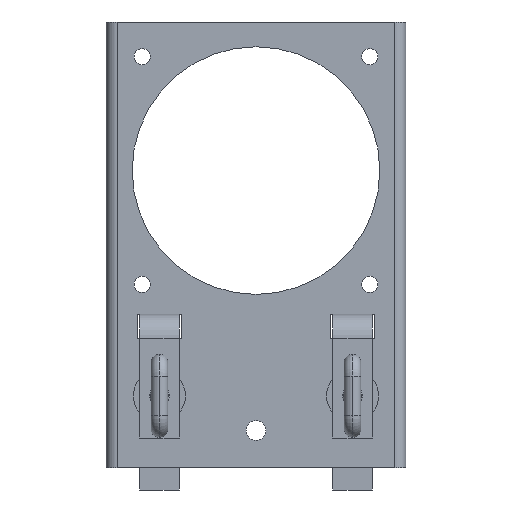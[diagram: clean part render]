
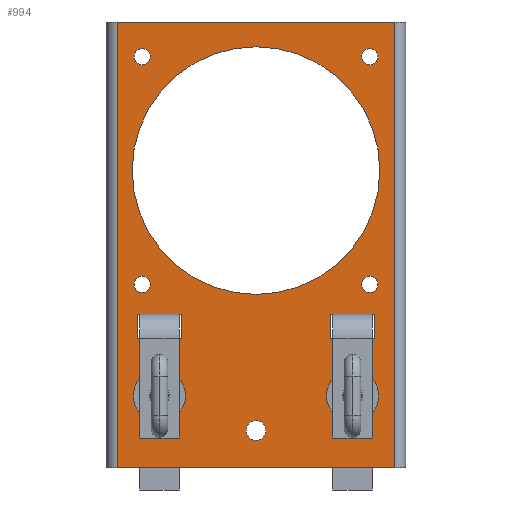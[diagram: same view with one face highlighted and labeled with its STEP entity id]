
A CAD part, front view. The second image highlights one B-rep face of the part: STEP entity #994.
In plain terms, the highlighted planar face has unit normal (0, -1, 0) as drawn and (0, 0, -1) by its records, which use the part's own axes.
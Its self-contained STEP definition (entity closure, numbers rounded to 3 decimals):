
#56=DIRECTION('',(0.,1.,0.));
#57=VECTOR('',#56,180.);
#58=CARTESIAN_POINT('',(-56.,0.,0.));
#59=LINE('',#58,#57);
#209=DIRECTION('',(-1.,0.,0.));
#210=VECTOR('',#209,112.);
#211=CARTESIAN_POINT('',(56.,0.,0.));
#212=LINE('',#211,#210);
#217=DIRECTION('',(0.,1.,0.));
#218=VECTOR('',#217,180.);
#219=CARTESIAN_POINT('',(56.,0.,0.));
#220=LINE('',#219,#218);
#235=CARTESIAN_POINT('',(0.,60.,0.));
#236=DIRECTION('',(0.,0.,1.));
#237=DIRECTION('',(1.,0.,0.));
#238=AXIS2_PLACEMENT_3D('',#235,#236,#237);
#240=CARTESIAN_POINT('',(0.,60.,0.));
#241=DIRECTION('',(0.,0.,1.));
#242=DIRECTION('',(-1.,0.,0.));
#243=AXIS2_PLACEMENT_3D('',#240,#241,#242);
#245=CARTESIAN_POINT('',(46.,106.,0.));
#246=DIRECTION('',(0.,0.,1.));
#247=DIRECTION('',(1.,0.,0.));
#248=AXIS2_PLACEMENT_3D('',#245,#246,#247);
#250=CARTESIAN_POINT('',(46.,106.,0.));
#251=DIRECTION('',(0.,0.,1.));
#252=DIRECTION('',(-1.,0.,0.));
#253=AXIS2_PLACEMENT_3D('',#250,#251,#252);
#255=CARTESIAN_POINT('',(46.,14.,0.));
#256=DIRECTION('',(0.,0.,1.));
#257=DIRECTION('',(1.,0.,0.));
#258=AXIS2_PLACEMENT_3D('',#255,#256,#257);
#260=CARTESIAN_POINT('',(46.,14.,0.));
#261=DIRECTION('',(0.,0.,1.));
#262=DIRECTION('',(-1.,0.,0.));
#263=AXIS2_PLACEMENT_3D('',#260,#261,#262);
#265=CARTESIAN_POINT('',(-46.,106.,0.));
#266=DIRECTION('',(0.,0.,1.));
#267=DIRECTION('',(1.,0.,0.));
#268=AXIS2_PLACEMENT_3D('',#265,#266,#267);
#270=CARTESIAN_POINT('',(-46.,106.,0.));
#271=DIRECTION('',(0.,0.,1.));
#272=DIRECTION('',(-1.,0.,0.));
#273=AXIS2_PLACEMENT_3D('',#270,#271,#272);
#275=CARTESIAN_POINT('',(-46.,14.,0.));
#276=DIRECTION('',(0.,0.,1.));
#277=DIRECTION('',(1.,0.,0.));
#278=AXIS2_PLACEMENT_3D('',#275,#276,#277);
#280=CARTESIAN_POINT('',(-46.,14.,0.));
#281=DIRECTION('',(0.,0.,1.));
#282=DIRECTION('',(-1.,0.,0.));
#283=AXIS2_PLACEMENT_3D('',#280,#281,#282);
#285=DIRECTION('',(-1.,0.,0.));
#286=VECTOR('',#285,18.);
#287=CARTESIAN_POINT('',(-30.,128.,0.));
#288=LINE('',#287,#286);
#289=DIRECTION('',(0.,1.,0.));
#290=VECTOR('',#289,10.);
#291=CARTESIAN_POINT('',(-30.,118.,0.));
#292=LINE('',#291,#290);
#293=DIRECTION('',(1.,0.,0.));
#294=VECTOR('',#293,18.);
#295=CARTESIAN_POINT('',(-48.,118.,0.));
#296=LINE('',#295,#294);
#297=DIRECTION('',(0.,-1.,0.));
#298=VECTOR('',#297,10.);
#299=CARTESIAN_POINT('',(-48.,128.,0.));
#300=LINE('',#299,#298);
#301=DIRECTION('',(-1.,0.,0.));
#302=VECTOR('',#301,18.);
#303=CARTESIAN_POINT('',(48.,128.,0.));
#304=LINE('',#303,#302);
#305=DIRECTION('',(0.,1.,0.));
#306=VECTOR('',#305,10.);
#307=CARTESIAN_POINT('',(48.,118.,0.));
#308=LINE('',#307,#306);
#309=DIRECTION('',(1.,0.,0.));
#310=VECTOR('',#309,18.);
#311=CARTESIAN_POINT('',(30.,118.,0.));
#312=LINE('',#311,#310);
#313=DIRECTION('',(0.,-1.,0.));
#314=VECTOR('',#313,10.);
#315=CARTESIAN_POINT('',(30.,128.,0.));
#316=LINE('',#315,#314);
#317=CARTESIAN_POINT('',(0.,165.,0.));
#318=DIRECTION('',(0.,0.,1.));
#319=DIRECTION('',(1.,0.,0.));
#320=AXIS2_PLACEMENT_3D('',#317,#318,#319);
#322=CARTESIAN_POINT('',(0.,165.,0.));
#323=DIRECTION('',(0.,0.,1.));
#324=DIRECTION('',(-1.,0.,0.));
#325=AXIS2_PLACEMENT_3D('',#322,#323,#324);
#335=DIRECTION('',(-1.,0.,0.));
#336=VECTOR('',#335,112.);
#337=CARTESIAN_POINT('',(56.,180.,0.));
#338=LINE('',#337,#336);
#505=CARTESIAN_POINT('',(56.,0.,0.));
#506=CARTESIAN_POINT('',(-56.,0.,0.));
#507=VERTEX_POINT('',#505);
#508=VERTEX_POINT('',#506);
#509=CARTESIAN_POINT('',(56.,180.,0.));
#510=CARTESIAN_POINT('',(-56.,180.,0.));
#511=VERTEX_POINT('',#509);
#512=VERTEX_POINT('',#510);
#521=CARTESIAN_POINT('',(50.,60.,0.));
#522=CARTESIAN_POINT('',(-50.,60.,0.));
#523=VERTEX_POINT('',#521);
#524=VERTEX_POINT('',#522);
#529=CARTESIAN_POINT('',(49.25,106.,0.));
#530=CARTESIAN_POINT('',(42.75,106.,0.));
#531=VERTEX_POINT('',#529);
#532=VERTEX_POINT('',#530);
#537=CARTESIAN_POINT('',(49.25,14.,0.));
#538=CARTESIAN_POINT('',(42.75,14.,0.));
#539=VERTEX_POINT('',#537);
#540=VERTEX_POINT('',#538);
#545=CARTESIAN_POINT('',(-42.75,106.,0.));
#546=CARTESIAN_POINT('',(-49.25,106.,0.));
#547=VERTEX_POINT('',#545);
#548=VERTEX_POINT('',#546);
#553=CARTESIAN_POINT('',(-42.75,14.,0.));
#554=CARTESIAN_POINT('',(-49.25,14.,0.));
#555=VERTEX_POINT('',#553);
#556=VERTEX_POINT('',#554);
#561=CARTESIAN_POINT('',(-30.,128.,0.));
#562=CARTESIAN_POINT('',(-48.,128.,0.));
#563=VERTEX_POINT('',#561);
#564=VERTEX_POINT('',#562);
#565=CARTESIAN_POINT('',(-48.,118.,0.));
#566=VERTEX_POINT('',#565);
#567=CARTESIAN_POINT('',(-30.,118.,0.));
#568=VERTEX_POINT('',#567);
#569=CARTESIAN_POINT('',(48.,128.,0.));
#570=CARTESIAN_POINT('',(30.,128.,0.));
#571=VERTEX_POINT('',#569);
#572=VERTEX_POINT('',#570);
#573=CARTESIAN_POINT('',(30.,118.,0.));
#574=VERTEX_POINT('',#573);
#575=CARTESIAN_POINT('',(48.,118.,0.));
#576=VERTEX_POINT('',#575);
#593=CARTESIAN_POINT('',(4.,165.,0.));
#594=CARTESIAN_POINT('',(-4.,165.,0.));
#595=VERTEX_POINT('',#593);
#596=VERTEX_POINT('',#594);
#926=CARTESIAN_POINT('',(60.5,0.,0.));
#927=DIRECTION('',(0.,0.,-1.));
#928=DIRECTION('',(-1.,0.,0.));
#929=AXIS2_PLACEMENT_3D('',#926,#927,#928);
#930=PLANE('',#929);
#931=ORIENTED_EDGE('',*,*,#891,.F.);
#932=ORIENTED_EDGE('',*,*,#916,.T.);
#934=ORIENTED_EDGE('',*,*,#933,.T.);
#935=ORIENTED_EDGE('',*,*,#735,.F.);
#936=EDGE_LOOP('',(#931,#932,#934,#935));
#937=FACE_OUTER_BOUND('',#936,.F.);
#939=ORIENTED_EDGE('',*,*,#938,.F.);
#941=ORIENTED_EDGE('',*,*,#940,.F.);
#942=EDGE_LOOP('',(#939,#941));
#943=FACE_BOUND('',#942,.F.);
#945=ORIENTED_EDGE('',*,*,#944,.F.);
#947=ORIENTED_EDGE('',*,*,#946,.F.);
#948=EDGE_LOOP('',(#945,#947));
#949=FACE_BOUND('',#948,.F.);
#951=ORIENTED_EDGE('',*,*,#950,.F.);
#953=ORIENTED_EDGE('',*,*,#952,.F.);
#954=EDGE_LOOP('',(#951,#953));
#955=FACE_BOUND('',#954,.F.);
#957=ORIENTED_EDGE('',*,*,#956,.F.);
#959=ORIENTED_EDGE('',*,*,#958,.F.);
#960=EDGE_LOOP('',(#957,#959));
#961=FACE_BOUND('',#960,.F.);
#963=ORIENTED_EDGE('',*,*,#962,.F.);
#965=ORIENTED_EDGE('',*,*,#964,.F.);
#966=EDGE_LOOP('',(#963,#965));
#967=FACE_BOUND('',#966,.F.);
#969=ORIENTED_EDGE('',*,*,#968,.F.);
#971=ORIENTED_EDGE('',*,*,#970,.F.);
#973=ORIENTED_EDGE('',*,*,#972,.F.);
#975=ORIENTED_EDGE('',*,*,#974,.F.);
#976=EDGE_LOOP('',(#969,#971,#973,#975));
#977=FACE_BOUND('',#976,.F.);
#979=ORIENTED_EDGE('',*,*,#978,.F.);
#981=ORIENTED_EDGE('',*,*,#980,.F.);
#983=ORIENTED_EDGE('',*,*,#982,.F.);
#985=ORIENTED_EDGE('',*,*,#984,.F.);
#986=EDGE_LOOP('',(#979,#981,#983,#985));
#987=FACE_BOUND('',#986,.F.);
#989=ORIENTED_EDGE('',*,*,#988,.F.);
#991=ORIENTED_EDGE('',*,*,#990,.F.);
#992=EDGE_LOOP('',(#989,#991));
#993=FACE_BOUND('',#992,.F.);
#994=ADVANCED_FACE('',(#937,#943,#949,#955,#961,#967,#977,#987,#993),#930,.T.);
#239=CIRCLE('',#238,50.);
#244=CIRCLE('',#243,50.);
#249=CIRCLE('',#248,3.25);
#254=CIRCLE('',#253,3.25);
#259=CIRCLE('',#258,3.25);
#264=CIRCLE('',#263,3.25);
#269=CIRCLE('',#268,3.25);
#274=CIRCLE('',#273,3.25);
#279=CIRCLE('',#278,3.25);
#284=CIRCLE('',#283,3.25);
#321=CIRCLE('',#320,4.);
#326=CIRCLE('',#325,4.);
#735=EDGE_CURVE('',#508,#512,#59,.T.);
#891=EDGE_CURVE('',#507,#508,#212,.T.);
#916=EDGE_CURVE('',#507,#511,#220,.T.);
#933=EDGE_CURVE('',#511,#512,#338,.T.);
#938=EDGE_CURVE('',#523,#524,#239,.T.);
#940=EDGE_CURVE('',#524,#523,#244,.T.);
#944=EDGE_CURVE('',#531,#532,#249,.T.);
#946=EDGE_CURVE('',#532,#531,#254,.T.);
#950=EDGE_CURVE('',#539,#540,#259,.T.);
#952=EDGE_CURVE('',#540,#539,#264,.T.);
#956=EDGE_CURVE('',#547,#548,#269,.T.);
#958=EDGE_CURVE('',#548,#547,#274,.T.);
#962=EDGE_CURVE('',#555,#556,#279,.T.);
#964=EDGE_CURVE('',#556,#555,#284,.T.);
#968=EDGE_CURVE('',#563,#564,#288,.T.);
#970=EDGE_CURVE('',#568,#563,#292,.T.);
#972=EDGE_CURVE('',#566,#568,#296,.T.);
#974=EDGE_CURVE('',#564,#566,#300,.T.);
#978=EDGE_CURVE('',#571,#572,#304,.T.);
#980=EDGE_CURVE('',#576,#571,#308,.T.);
#982=EDGE_CURVE('',#574,#576,#312,.T.);
#984=EDGE_CURVE('',#572,#574,#316,.T.);
#988=EDGE_CURVE('',#595,#596,#321,.T.);
#990=EDGE_CURVE('',#596,#595,#326,.T.);
